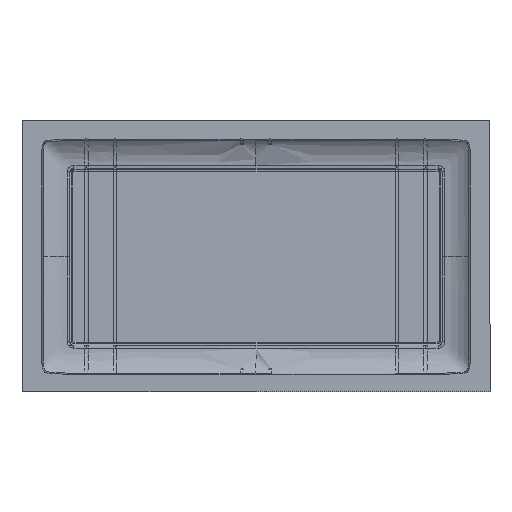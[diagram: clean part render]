
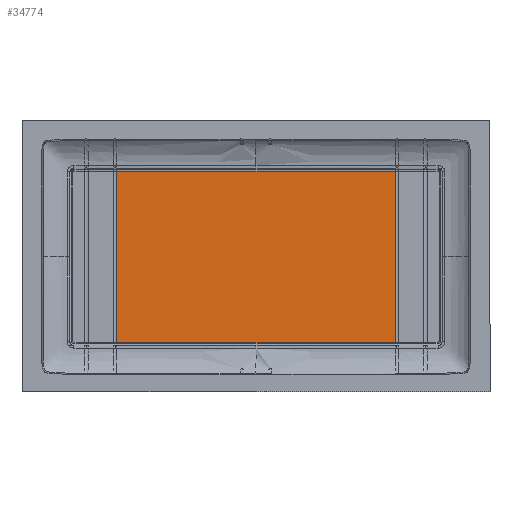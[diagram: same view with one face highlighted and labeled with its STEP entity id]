
A CAD part, front view. The second image highlights one B-rep face of the part: STEP entity #34774.
In plain terms, the highlighted planar face has unit normal (0, -1, 0).
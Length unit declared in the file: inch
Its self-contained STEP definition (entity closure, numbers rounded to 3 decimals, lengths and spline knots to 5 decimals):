
#2383 = CARTESIAN_POINT ( 'NONE',  ( 8.59721, 2.04, 5.28928 ) ) ;
#3040 = EDGE_CURVE ( 'NONE', #3504, #7814, #16687, .T. ) ;
#3504 = VERTEX_POINT ( 'NONE', #35196 ) ;
#4588 = VECTOR ( 'NONE', #22321, 39.37008 ) ;
#6138 = LINE ( 'NONE', #30138, #30687 ) ;
#7814 = VERTEX_POINT ( 'NONE', #32328 ) ;
#8366 = DIRECTION ( 'NONE',  ( 0., 1., 0. ) ) ;
#9873 = EDGE_CURVE ( 'NONE', #3504, #15475, #34454, .T. ) ;
#12383 = LINE ( 'NONE', #2383, #4588 ) ;
#15475 = VERTEX_POINT ( 'NONE', #23082 ) ;
#15651 = VECTOR ( 'NONE', #43019, 39.37008 ) ;
#16687 = LINE ( 'NONE', #30897, #15651 ) ;
#17425 = EDGE_CURVE ( 'NONE', #38427, #15475, #12383, .T. ) ;
#20323 = EDGE_CURVE ( 'NONE', #38427, #7814, #6138, .T. ) ;
#21635 = CARTESIAN_POINT ( 'NONE',  ( 0., 2.04, 0. ) ) ;
#21926 = DIRECTION ( 'NONE',  ( 0., 0., 1. ) ) ;
#22321 = DIRECTION ( 'NONE',  ( 0., 0., -1. ) ) ;
#22331 = DIRECTION ( 'NONE',  ( 1., 0., 0. ) ) ;
#22424 = CARTESIAN_POINT ( 'NONE',  ( 0., 2.04, -5.28928 ) ) ;
#23082 = CARTESIAN_POINT ( 'NONE',  ( 8.59721, 2.04, -5.28928 ) ) ;
#23561 = DIRECTION ( 'NONE',  ( -1., 0., 0. ) ) ;
#23797 = ORIENTED_EDGE ( 'NONE', *, *, #3040, .F. ) ;
#24713 = EDGE_LOOP ( 'NONE', ( #35578, #42122, #23797, #35912 ) ) ;
#26539 = VECTOR ( 'NONE', #22331, 39.37008 ) ;
#30138 = CARTESIAN_POINT ( 'NONE',  ( 0., 2.04, 5.28928 ) ) ;
#30687 = VECTOR ( 'NONE', #23561, 39.37008 ) ;
#30897 = CARTESIAN_POINT ( 'NONE',  ( -8.59721, 2.04, 5.28928 ) ) ;
#32328 = CARTESIAN_POINT ( 'NONE',  ( -8.59721, 2.04, 5.28928 ) ) ;
#34454 = LINE ( 'NONE', #22424, #26539 ) ;
#34774 = ADVANCED_FACE ( 'NONE', ( #37849 ), #41993, .F. ) ;
#35196 = CARTESIAN_POINT ( 'NONE',  ( -8.59721, 2.04, -5.28928 ) ) ;
#35578 = ORIENTED_EDGE ( 'NONE', *, *, #17425, .F. ) ;
#35912 = ORIENTED_EDGE ( 'NONE', *, *, #9873, .T. ) ;
#37849 = FACE_OUTER_BOUND ( 'NONE', #24713, .T. ) ;
#38427 = VERTEX_POINT ( 'NONE', #40216 ) ;
#40216 = CARTESIAN_POINT ( 'NONE',  ( 8.59721, 2.04, 5.28928 ) ) ;
#41417 = AXIS2_PLACEMENT_3D ( 'NONE', #21635, #8366, #21926 ) ;
#41993 = PLANE ( 'NONE',  #41417 ) ;
#42122 = ORIENTED_EDGE ( 'NONE', *, *, #20323, .T. ) ;
#43019 = DIRECTION ( 'NONE',  ( 0., 0., 1. ) ) ;
